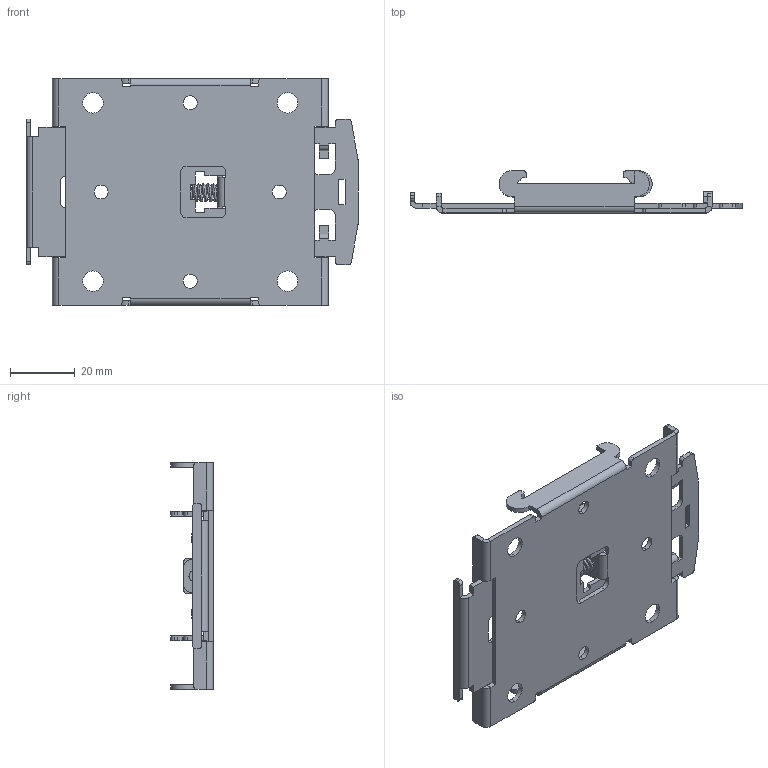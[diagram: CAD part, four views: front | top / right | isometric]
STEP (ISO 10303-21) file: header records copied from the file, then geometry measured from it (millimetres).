
FILE_DESCRIPTION (( 'STEP AP203' ), '1' );
FILE_NAME ('PA122.STEP', '2022-04-02T06:45:13', ( '' ), ( '' ), 'SwSTEP 2.0', 'SolidWorks 2021', '' );
FILE_SCHEMA (( 'CONFIG_CONTROL_DESIGN' ));
Length unit declared in the file: millimetre
Products named in the file (4): PA122
Assembly tree (3 placements, depth 2):
  PA122
    PA122
    PA122
    PA122
Bounding box: 102.4 x 13 x 70 mm (x, y, z)
Volume: 14949.1 mm3; surface area: 22514.6 mm2
Topology: 3 solids, 3 shells, 390 faces, 1018 edges, 638 vertices
Faces by surface type: plane 263, cylinder 119, torus 6, bspline 2
Entity records: 15444 total; most frequent: CARTESIAN_POINT 5232, DIRECTION 2058, ORIENTED_EDGE 2036, EDGE_CURVE 1018, LINE 762, VECTOR 762, AXIS2_PLACEMENT_3D 648, VERTEX_POINT 638
